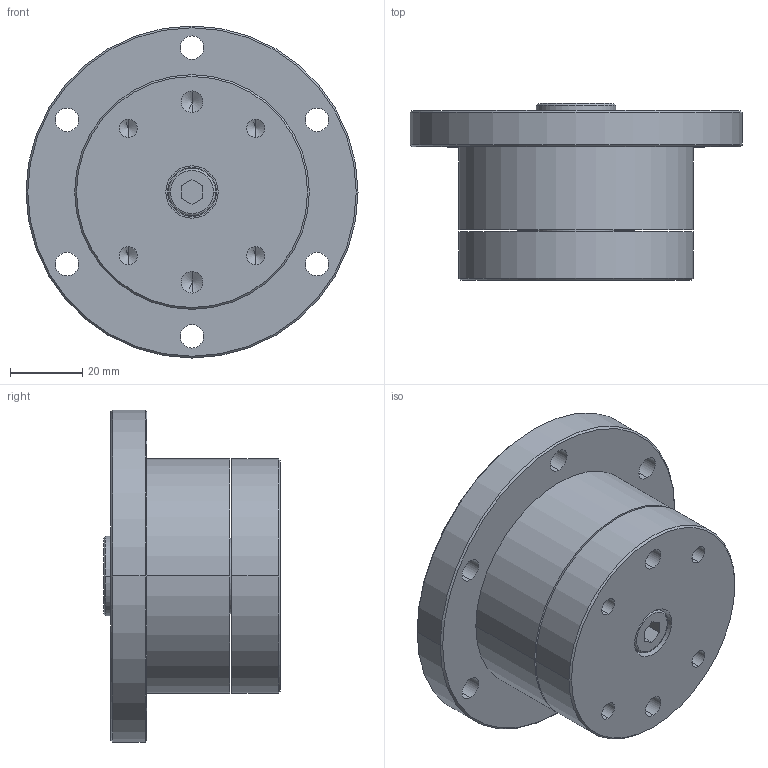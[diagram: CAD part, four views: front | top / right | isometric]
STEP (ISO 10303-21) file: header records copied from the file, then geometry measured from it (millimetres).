
FILE_DESCRIPTION (( 'STEP AP203' ), '1' );
FILE_NAME ('FGU-NEH-5-2T.STEP', '2022-10-31T07:49:53', ( '' ), ( '' ), 'SwSTEP 2.0', 'SolidWorks 2021', '' );
FILE_SCHEMA (( 'CONFIG_CONTROL_DESIGN' ));
Length unit declared in the file: millimetre
Products named in the file (1): FGU-NEH-5-2T
Bounding box: 92 x 49 x 92 mm (x, y, z)
Volume: 183466.4 mm3; surface area: 34149.2 mm2
Topology: 1 solids, 1 shells, 180 faces, 420 edges, 261 vertices
Faces by surface type: cylinder 74, plane 70, cone 22, torus 14
Entity records: 5179 total; most frequent: DIRECTION 952, CARTESIAN_POINT 848, ORIENTED_EDGE 812, EDGE_CURVE 406, AXIS2_PLACEMENT_3D 365, VERTEX_POINT 261, EDGE_LOOP 233, LINE 222
